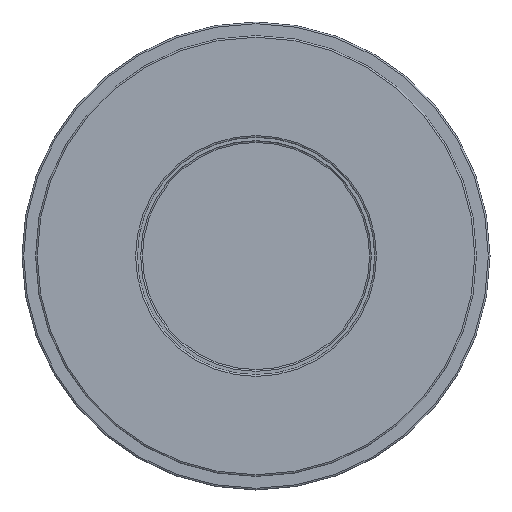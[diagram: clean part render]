
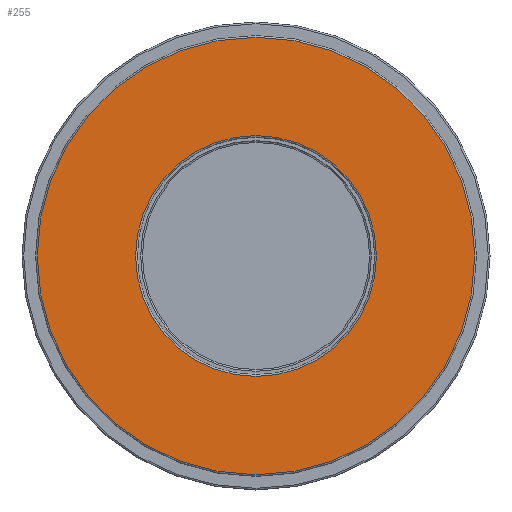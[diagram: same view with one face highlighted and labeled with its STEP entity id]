
A CAD part, front view. The second image highlights one B-rep face of the part: STEP entity #255.
In plain terms, the highlighted planar face has unit normal (0, -1, 0).
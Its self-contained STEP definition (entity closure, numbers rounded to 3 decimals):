
#255=ADVANCED_FACE('',(#3540,#3542),#3544,.T.);
#3540=FACE_BOUND('',#3541,.T.);
#3541=EDGE_LOOP('',(#4368,#4369));
#3542=FACE_BOUND('',#3543,.T.);
#3543=EDGE_LOOP('',(#4370,#4371));
#3544=PLANE('',#3545);
#3545=AXIS2_PLACEMENT_3D('',#3546,#3547,#3548);
#3546=CARTESIAN_POINT('',(0.,-28.,0.));
#3547=DIRECTION('',(0.,-1.,0.));
#3548=DIRECTION('',(0.,0.,1.));
#4368=ORIENTED_EDGE('',*,*,#4773,.F.);
#4369=ORIENTED_EDGE('',*,*,#4772,.F.);
#4370=ORIENTED_EDGE('',*,*,#4774,.T.);
#4371=ORIENTED_EDGE('',*,*,#4775,.T.);
#4772=EDGE_CURVE('',#5337,#5338,#5339,.T.);
#4773=EDGE_CURVE('',#5338,#5337,#5340,.T.);
#4774=EDGE_CURVE('',#5341,#5342,#5343,.T.);
#4775=EDGE_CURVE('',#5342,#5341,#5344,.T.);
#5337=VERTEX_POINT('',#10106);
#5338=VERTEX_POINT('',#10107);
#5339=CIRCLE('',#10108,64.5);
#5340=CIRCLE('',#10112,64.5);
#5341=VERTEX_POINT('',#10116);
#5342=VERTEX_POINT('',#10117);
#5343=CIRCLE('',#10118,35.5);
#5344=CIRCLE('',#10122,35.5);
#10106=CARTESIAN_POINT('',(0.,-28.,64.5));
#10107=CARTESIAN_POINT('',(0.,-28.,-64.5));
#10108=AXIS2_PLACEMENT_3D('',#10109,#10110,#10111);
#10109=CARTESIAN_POINT('',(0.,-28.,0.));
#10110=DIRECTION('',(0.,1.,0.));
#10111=DIRECTION('',(0.,0.,1.));
#10112=AXIS2_PLACEMENT_3D('',#10113,#10114,#10115);
#10113=CARTESIAN_POINT('',(0.,-28.,0.));
#10114=DIRECTION('',(0.,1.,0.));
#10115=DIRECTION('',(0.,0.,-1.));
#10116=CARTESIAN_POINT('',(0.,-28.,35.5));
#10117=CARTESIAN_POINT('',(0.,-28.,-35.5));
#10118=AXIS2_PLACEMENT_3D('',#10119,#10120,#10121);
#10119=CARTESIAN_POINT('',(0.,-28.,0.));
#10120=DIRECTION('',(0.,1.,0.));
#10121=DIRECTION('',(0.,0.,1.));
#10122=AXIS2_PLACEMENT_3D('',#10123,#10124,#10125);
#10123=CARTESIAN_POINT('',(0.,-28.,0.));
#10124=DIRECTION('',(0.,1.,0.));
#10125=DIRECTION('',(0.,0.,-1.));
